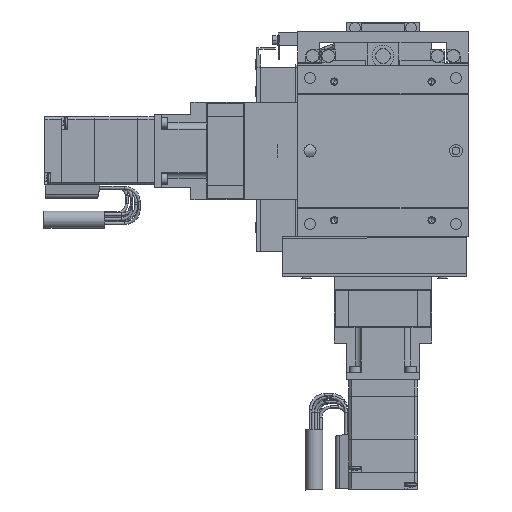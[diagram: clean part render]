
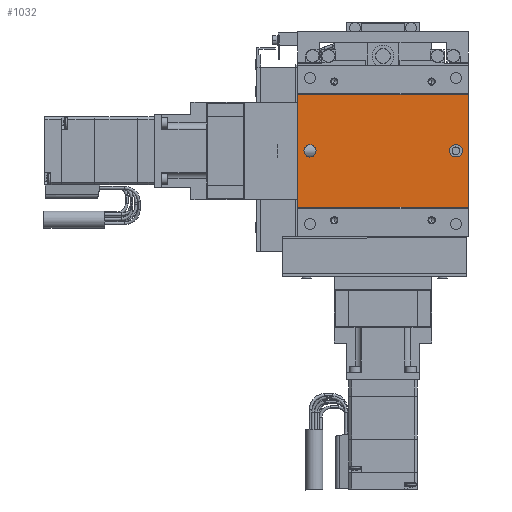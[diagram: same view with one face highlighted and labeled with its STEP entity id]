
A CAD part, front view. The second image highlights one B-rep face of the part: STEP entity #1032.
In plain terms, the highlighted planar face has unit normal (0, -1, 0).
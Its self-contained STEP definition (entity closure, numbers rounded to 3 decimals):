
#1032=ADVANCED_FACE('',(#3425,#3426,#3427),#3428,.F.);
#3425=FACE_BOUND('',#8328,.T.);
#3426=FACE_OUTER_BOUND('',#8329,.T.);
#3427=FACE_BOUND('',#8330,.T.);
#3428=PLANE('',#8331);
#8328=EDGE_LOOP('',(#13776,#13777,#13778,#13779));
#8329=EDGE_LOOP('',(#13780,#13781,#13782,#13783));
#8330=EDGE_LOOP('',(#13784,#13785,#13786));
#8331=AXIS2_PLACEMENT_3D('',#13787,#13788,#13789);
#13776=ORIENTED_EDGE('',*,*,#32038,.F.);
#13777=ORIENTED_EDGE('',*,*,#32039,.F.);
#13778=ORIENTED_EDGE('',*,*,#32040,.F.);
#13779=ORIENTED_EDGE('',*,*,#32041,.F.);
#13780=ORIENTED_EDGE('',*,*,#32027,.T.);
#13781=ORIENTED_EDGE('',*,*,#32042,.F.);
#13782=ORIENTED_EDGE('',*,*,#32043,.F.);
#13783=ORIENTED_EDGE('',*,*,#32044,.T.);
#13784=ORIENTED_EDGE('',*,*,#31924,.F.);
#13785=ORIENTED_EDGE('',*,*,#31923,.F.);
#13786=ORIENTED_EDGE('',*,*,#32045,.F.);
#13787=CARTESIAN_POINT('',(-35.,0.35,-23.15));
#13788=DIRECTION('',(0.,1.0,0.));
#13789=DIRECTION('',(-1.0,0.,0.));
#31923=EDGE_CURVE('',#37957,#37959,#37960,.F.);
#31924=EDGE_CURVE('',#37959,#37953,#37961,.F.);
#32027=EDGE_CURVE('',#38154,#38152,#38155,.T.);
#32038=EDGE_CURVE('',#38174,#38175,#38176,.F.);
#32039=EDGE_CURVE('',#38177,#38174,#38178,.T.);
#32040=EDGE_CURVE('',#38179,#38177,#38180,.F.);
#32041=EDGE_CURVE('',#38175,#38179,#38181,.T.);
#32042=EDGE_CURVE('',#38182,#38152,#38183,.T.);
#32043=EDGE_CURVE('',#38184,#38182,#38185,.T.);
#32044=EDGE_CURVE('',#38184,#38154,#38186,.T.);
#32045=EDGE_CURVE('',#37953,#37957,#38187,.F.);
#37953=VERTEX_POINT('',#47773);
#37957=VERTEX_POINT('',#47778);
#37959=VERTEX_POINT('',#47781);
#37960=CIRCLE('',#47782,2.5);
#37961=CIRCLE('',#47783,2.5);
#38152=VERTEX_POINT('',#48032);
#38154=VERTEX_POINT('',#48035);
#38155=LINE('',#48036,#48037);
#38174=VERTEX_POINT('',#48065);
#38175=VERTEX_POINT('',#48066);
#38176=CIRCLE('',#48067,2.5);
#38177=VERTEX_POINT('',#48068);
#38178=LINE('',#48069,#48070);
#38179=VERTEX_POINT('',#48071);
#38180=CIRCLE('',#48072,2.5);
#38181=LINE('',#48073,#48074);
#38182=VERTEX_POINT('',#48075);
#38183=LINE('',#48076,#48077);
#38184=VERTEX_POINT('',#48078);
#38185=LINE('',#48079,#48080);
#38186=LINE('',#48081,#48082);
#38187=CIRCLE('',#48083,2.5);
#47773=CARTESIAN_POINT('',(-27.5,0.35,0.));
#47778=CARTESIAN_POINT('',(-32.5,0.35,0.));
#47781=CARTESIAN_POINT('',(-30.,0.35,-2.5));
#47782=AXIS2_PLACEMENT_3D('',#61758,#61759,#61760);
#47783=AXIS2_PLACEMENT_3D('',#61761,#61762,#61763);
#48032=CARTESIAN_POINT('',(35.,0.35,23.15));
#48035=CARTESIAN_POINT('',(35.,0.35,-23.15));
#48036=CARTESIAN_POINT('',(35.,0.35,-23.15));
#48037=VECTOR('',#61952,1000.0);
#48065=CARTESIAN_POINT('',(30.25,0.35,-2.5));
#48066=CARTESIAN_POINT('',(30.25,0.35,2.5));
#48067=AXIS2_PLACEMENT_3D('',#61965,#61966,#61967);
#48068=CARTESIAN_POINT('',(29.75,0.35,-2.5));
#48069=CARTESIAN_POINT('',(-35.,0.35,-2.5));
#48070=VECTOR('',#61968,1000.0);
#48071=CARTESIAN_POINT('',(29.75,0.35,2.5));
#48072=AXIS2_PLACEMENT_3D('',#61969,#61970,#61971);
#48073=CARTESIAN_POINT('',(-35.,0.35,2.5));
#48074=VECTOR('',#61972,1000.0);
#48075=CARTESIAN_POINT('',(-35.,0.35,23.15));
#48076=CARTESIAN_POINT('',(-35.,0.35,23.15));
#48077=VECTOR('',#61973,1000.0);
#48078=CARTESIAN_POINT('',(-35.,0.35,-23.15));
#48079=CARTESIAN_POINT('',(-35.,0.35,-23.15));
#48080=VECTOR('',#61974,1000.0);
#48081=CARTESIAN_POINT('',(-35.,0.35,-23.15));
#48082=VECTOR('',#61975,1000.0);
#48083=AXIS2_PLACEMENT_3D('',#61976,#61977,#61978);
#61758=CARTESIAN_POINT('',(-30.0,0.35,0.));
#61759=DIRECTION('',(0.,1.0,0.));
#61760=DIRECTION('',(0.,0.,-1.0));
#61761=CARTESIAN_POINT('',(-30.0,0.35,0.));
#61762=DIRECTION('',(0.,1.0,0.));
#61763=DIRECTION('',(0.,0.,-1.0));
#61952=DIRECTION('',(0.,0.,1.0));
#61965=CARTESIAN_POINT('',(30.25,0.35,0.));
#61966=DIRECTION('',(0.,1.0,0.));
#61967=DIRECTION('',(0.,0.,-1.0));
#61968=DIRECTION('',(1.0,0.,0.));
#61969=CARTESIAN_POINT('',(29.75,0.35,0.));
#61970=DIRECTION('',(0.,1.0,0.));
#61971=DIRECTION('',(0.,0.,-1.0));
#61972=DIRECTION('',(-1.0,0.,0.));
#61973=DIRECTION('',(1.0,0.,0.));
#61974=DIRECTION('',(0.,0.,1.0));
#61975=DIRECTION('',(1.0,0.,0.));
#61976=CARTESIAN_POINT('',(-30.0,0.35,0.));
#61977=DIRECTION('',(0.,1.0,0.));
#61978=DIRECTION('',(0.,0.,-1.0));
